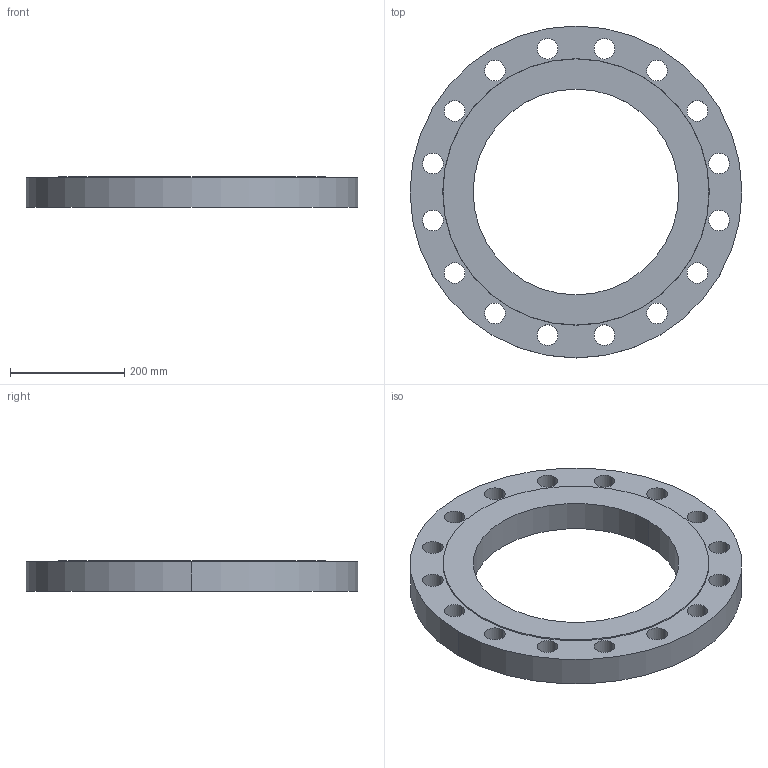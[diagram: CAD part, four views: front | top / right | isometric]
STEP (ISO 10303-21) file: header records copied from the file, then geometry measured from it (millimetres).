
FILE_DESCRIPTION (( 'STEP AP214' ), '1' );
FILE_NAME ('PN40 DN350 Type 01 - Type B Face.STEP', '2019-01-05T21:59:56', ( '' ), ( '' ), 'SwSTEP 2.0', 'SolidWorks 2019', '' );
FILE_SCHEMA (( 'AUTOMOTIVE_DESIGN' ));
Length unit declared in the file: millimetre
Products named in the file (1): PN40 DN350 Type 01 - Type B Face
Bounding box: 580 x 580 x 54 mm (x, y, z)
Volume: 7750828 mm3; surface area: 545122.3 mm2
Topology: 1 solids, 1 shells, 41 faces, 114 edges, 76 vertices
Faces by surface type: cylinder 36, plane 3, cone 2
Entity records: 1466 total; most frequent: DIRECTION 274, CARTESIAN_POINT 232, ORIENTED_EDGE 228, AXIS2_PLACEMENT_3D 118, EDGE_CURVE 114, CIRCLE 76, EDGE_LOOP 76, VERTEX_POINT 76
